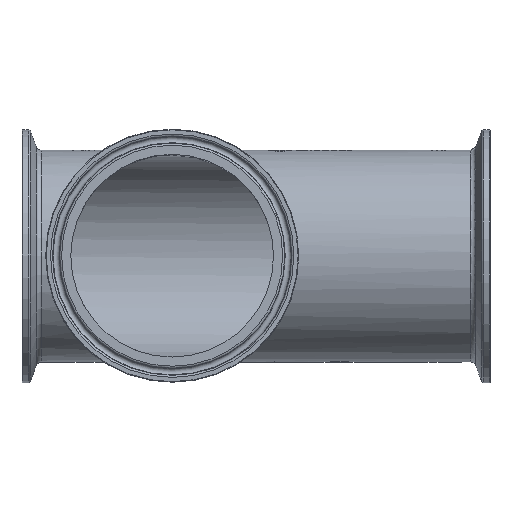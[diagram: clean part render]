
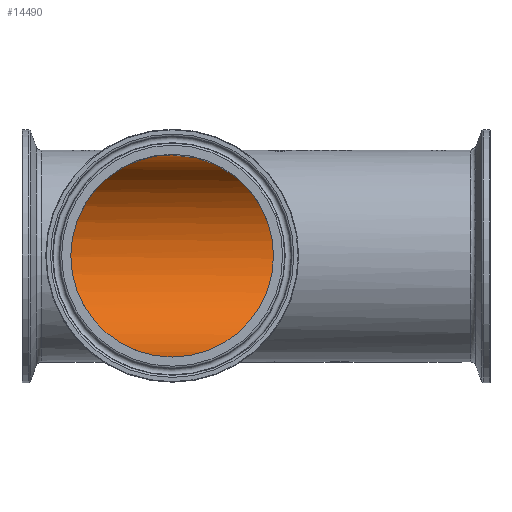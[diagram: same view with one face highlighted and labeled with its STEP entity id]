
A CAD part, top view. The second image highlights one B-rep face of the part: STEP entity #14490.
In plain terms, the highlighted cylindrical face has radius 36.45 mm (diameter 72.9 mm), a full revolution.
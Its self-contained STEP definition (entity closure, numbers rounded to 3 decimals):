
#263=ELLIPSE('',#15274,51.548,36.45);
#264=ELLIPSE('',#15275,51.548,36.45);
#2972=ORIENTED_EDGE('',*,*,#6003,.F.);
#2973=ORIENTED_EDGE('',*,*,#6000,.F.);
#2974=ORIENTED_EDGE('',*,*,#6001,.F.);
#2975=ORIENTED_EDGE('',*,*,#5546,.F.);
#5546=EDGE_CURVE('',#7075,#7075,#8120,.T.);
#6000=EDGE_CURVE('',#7529,#7530,#263,.T.);
#6001=EDGE_CURVE('',#7530,#7529,#264,.T.);
#6003=EDGE_CURVE('',#7532,#7532,#8261,.T.);
#7075=VERTEX_POINT('',#17888);
#7529=VERTEX_POINT('',#19899);
#7530=VERTEX_POINT('',#19900);
#7532=VERTEX_POINT('',#19906);
#8120=CIRCLE('',#15115,36.45);
#8261=CIRCLE('',#15278,36.45);
#8523=EDGE_LOOP('',(#2972));
#8524=EDGE_LOOP('',(#2973,#2974));
#8525=EDGE_LOOP('',(#2975));
#9299=FACE_BOUND('',#8523,.T.);
#9300=FACE_BOUND('',#8524,.T.);
#9301=FACE_BOUND('',#8525,.T.);
#9957=CYLINDRICAL_SURFACE('',#15279,36.45);
#14490=ADVANCED_FACE('',(#9299,#9300,#9301),#9957,.F.);
#15115=AXIS2_PLACEMENT_3D('',#17887,#15823,#15824);
#15274=AXIS2_PLACEMENT_3D('',#19898,#16253,#16254);
#15275=AXIS2_PLACEMENT_3D('',#19901,#16255,#16256);
#15278=AXIS2_PLACEMENT_3D('',#19905,#16261,#16262);
#15279=AXIS2_PLACEMENT_3D('',#19907,#16263,#16264);
#15823=DIRECTION('',(-1.,0.,0.));
#15824=DIRECTION('',(0.,-0.382,0.924));
#16253=DIRECTION('',(-0.707,0.,-0.707));
#16254=DIRECTION('',(0.707,0.,-0.707));
#16255=DIRECTION('',(0.707,0.,-0.707));
#16256=DIRECTION('',(-0.707,0.,-0.707));
#16261=DIRECTION('',(1.,0.,0.));
#16262=DIRECTION('',(0.,-1.,0.));
#16263=DIRECTION('',(1.,0.,0.));
#16264=DIRECTION('',(0.,-1.,0.));
#17887=CARTESIAN_POINT('',(168.3,0.,0.));
#17888=CARTESIAN_POINT('',(168.3,-13.918,33.688));
#19898=CARTESIAN_POINT('',(54.,0.,0.));
#19899=CARTESIAN_POINT('',(54.,-36.45,0.));
#19900=CARTESIAN_POINT('',(54.,36.45,0.));
#19901=CARTESIAN_POINT('',(54.,0.,0.));
#19905=CARTESIAN_POINT('',(0.,0.,0.));
#19906=CARTESIAN_POINT('',(0.,-36.45,0.));
#19907=CARTESIAN_POINT('',(14.1,0.,0.));
